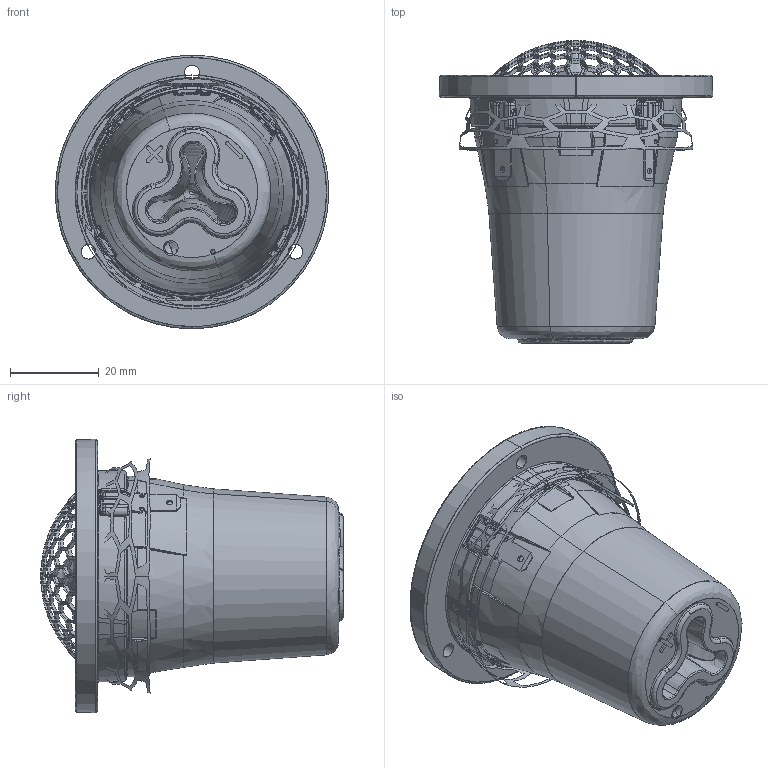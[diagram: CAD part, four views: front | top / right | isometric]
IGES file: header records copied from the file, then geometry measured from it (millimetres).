
Start section: SolidWorks IGES file using analytic representation for surfaces
Global section: file name: W:\TT\R30\R3004-602010.IGS; native system: SolidWorks 2019; preprocessor: SolidWorks 2019; author: mhn; date: 201217.115543; units: millimetre
Bounding box: 61.66 x 68.18 x 61.66 mm (x, y, z)
Surface area: 19894.1 mm2 (no closed solid volume)
Topology: 0 solids, 0 shells, 1170 faces, 9622 edges, 9613 vertices
Faces by surface type: bspline 929, revolution 241
